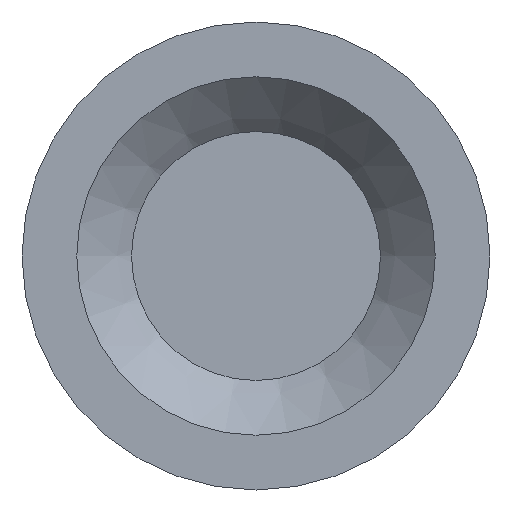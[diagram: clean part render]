
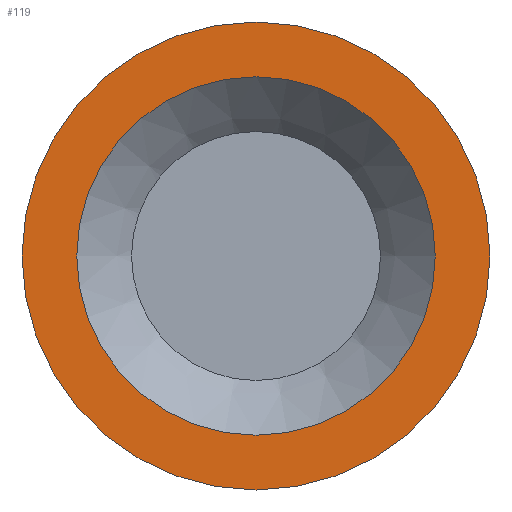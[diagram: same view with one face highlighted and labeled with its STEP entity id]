
A CAD part, left-side view. The second image highlights one B-rep face of the part: STEP entity #119.
In plain terms, the highlighted planar face has unit normal (-1, 0, 0).
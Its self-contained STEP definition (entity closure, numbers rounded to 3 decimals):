
#16=PLANE($,#139);
#25=FACE_BOUND($,#50,.T.);
#34=FACE_OUTER_BOUND($,#49,.T.);
#49=EDGE_LOOP($,(#99));
#50=EDGE_LOOP($,(#100));
#64=CIRCLE($,#138,0.914);
#65=CIRCLE($,#140,1.194);
#74=VERTEX_POINT($,#209);
#75=VERTEX_POINT($,#212);
#84=EDGE_CURVE($,#74,#74,#64,.T.);
#85=EDGE_CURVE($,#75,#75,#65,.T.);
#99=ORIENTED_EDGE($,*,*,#85,.F.);
#100=ORIENTED_EDGE($,*,*,#84,.T.);
#119=ADVANCED_FACE($,(#34,#25),#16,.T.);
#138=AXIS2_PLACEMENT_3D($,#210,#171,#172);
#139=AXIS2_PLACEMENT_3D($,#211,#173,#174);
#140=AXIS2_PLACEMENT_3D($,#213,#175,#176);
#171=DIRECTION('center_axis',(1.,0.,0.));
#172=DIRECTION('ref_axis',(0.,1.,0.));
#173=DIRECTION('center_axis',(-1.,0.,0.));
#174=DIRECTION('ref_axis',(0.,0.,1.));
#175=DIRECTION('center_axis',(1.,0.,0.));
#176=DIRECTION('ref_axis',(0.,1.,0.));
#209=CARTESIAN_POINT('',(6.855,0.914,0.));
#210=CARTESIAN_POINT('Origin',(6.855,0.,0.));
#211=CARTESIAN_POINT('Origin',(6.855,1.054,0.));
#212=CARTESIAN_POINT('',(6.855,1.194,0.));
#213=CARTESIAN_POINT('Origin',(6.855,0.,0.));
